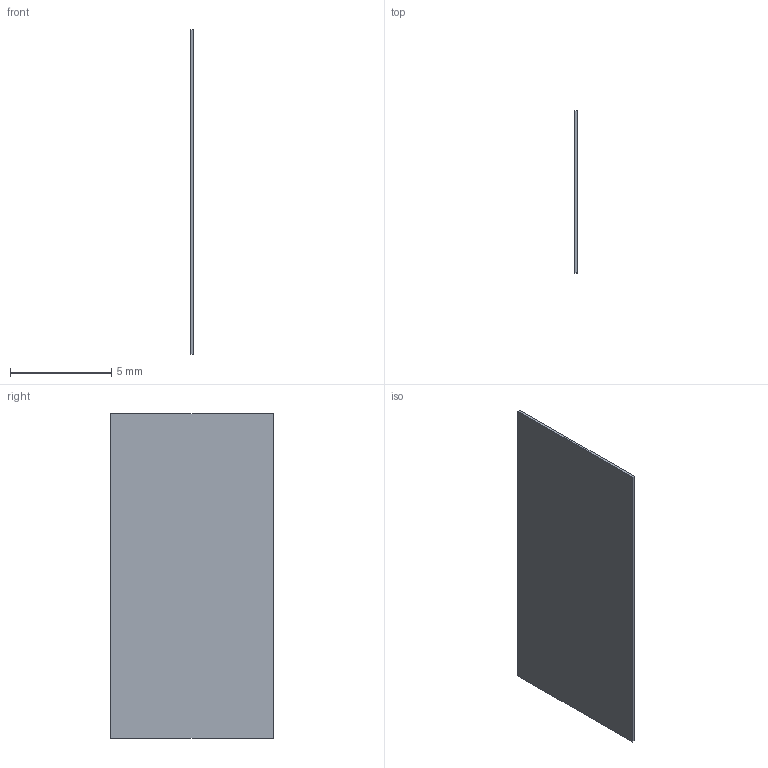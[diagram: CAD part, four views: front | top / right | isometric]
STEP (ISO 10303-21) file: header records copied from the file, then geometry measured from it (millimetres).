
FILE_DESCRIPTION(('Open CASCADE Model'),'2;1');
FILE_NAME('front_grip_PSA_patch_0_13_3','2026-09-08T13:43:18',('Author') ,('Open CASCADE'),'Open CASCADE STEP processor 7.8','build123d', 'Unknown');
FILE_SCHEMA(('AUTOMOTIVE_DESIGN { 1 0 10303 214 1 1 1 1 }'));
Length unit declared in the file: millimetre
Products named in the file (3): =>[0:1:1:2]; front_grip_PSA_patch_0_13_3; SOLID
Assembly tree (2 placements, depth 3):
  =>[0:1:1:2]
    front_grip_PSA_patch_0_13_3
      SOLID
Bounding box: 0.13 x 8 x 16 mm (x, y, z)
Volume: 16.6 mm3; surface area: 262.2 mm2
Topology: 1 solids, 1 shells, 6 faces, 12 edges, 8 vertices
Faces by surface type: plane 6
Entity records: 358 total; most frequent: DIRECTION 54, CARTESIAN_POINT 53, LINE 36, VECTOR 36, ORIENTED_EDGE 24, PCURVE 24, DEFINITIONAL_REPRESENTATION 24, EDGE_CURVE 12
